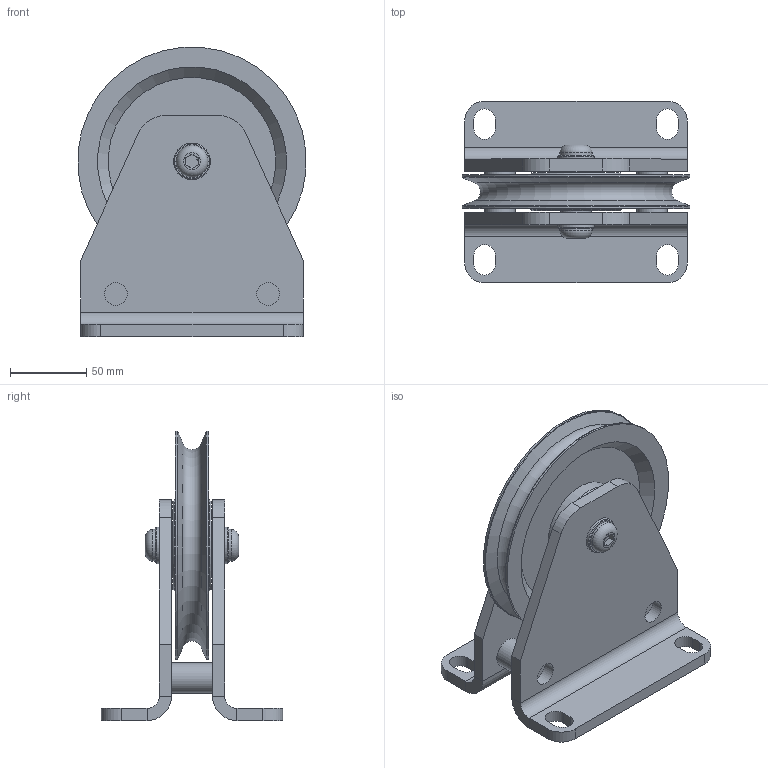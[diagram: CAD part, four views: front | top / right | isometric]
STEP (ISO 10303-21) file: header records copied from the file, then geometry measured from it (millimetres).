
FILE_DESCRIPTION(/* description */ ('Seilrollenbock ø150 Stahl Gleitlager komplett'),/* implementation_level */ '2;1');
FILE_NAME(/* name */ 'Z:\Workspace\03 Seilrollen\1.405 Seilrollenbock Stahl Gleitlager\1.405.05 Seilrollenbock ø150 Stahl Gleitlager\1.405.05 Seilrollenbock ø150 Stahl Gleitlager komplett.stp',/* time_stamp */ '2021-10-05T14:46:07+02:00',/* author */ ('cad-user'),/* organization */ (''),/* preprocessor_version */ 'ST-DEVELOPER v18',/* originating_system */ 'Autodesk Inventor 2020',/* authorisation */ '');
FILE_SCHEMA (('AUTOMOTIVE_DESIGN { 1 0 10303 214 3 1 1 }'));
Length unit declared in the file: millimetre
Products named in the file (10): 1.405.05 Seilrollenbock ø150 Stahl Gleitlager kompl
ett; 1.405.05.01 Seilrollenbock Schweißteil; 1.405.05.01 Blech; 1.405.04.01 Distanzachse; 1.401.05 Seilrolle ø150 Buchse komplett ; 1.401.05 Seilrolle ø150 Buchse ; Lagerbuchse 2025-DU; 1.405.05.02 Achse; ISO 7380 - M12 x 20; DIN 125-1 - B 13
Assembly tree (13 placements, depth 3):
  1.405.05 Seilrollenbock ø150 Stahl Gleitlager kompl
ett
    1.405.05.01 Seilrollenbock Schweißteil
      1.405.05.01 Blech  x2
      1.405.04.01 Distanzachse  x2
    1.401.05 Seilrolle ø150 Buchse komplett 
      1.401.05 Seilrolle ø150 Buchse 
      Lagerbuchse 2025-DU
    1.405.05.02 Achse
    ISO 7380 - M12 x 20  x2
    DIN 125-1 - B 13  x2
Bounding box: 149.45 x 119 x 189.72 mm (x, y, z)
Volume: 574321.4 mm3; surface area: 169649.6 mm2
Topology: 11 solids, 11 shells, 141 faces, 348 edges, 233 vertices
Faces by surface type: plane 74, cylinder 46, cone 14, torus 7
Full cylindrical faces by diameter (mm): 10.106 x1, 12 x2, 12.6 x2, 13 x2, 15 x4, 20 x3, 21 x2, 23 x1, 24 x2, 60 x2, 150 x2
Entity records: 3083 total; most frequent: DIRECTION 535, CARTESIAN_POINT 495, ORIENTED_EDGE 432, AXIS2_PLACEMENT_3D 220, EDGE_CURVE 216, VERTEX_POINT 147, CIRCLE 110, EDGE_LOOP 109
